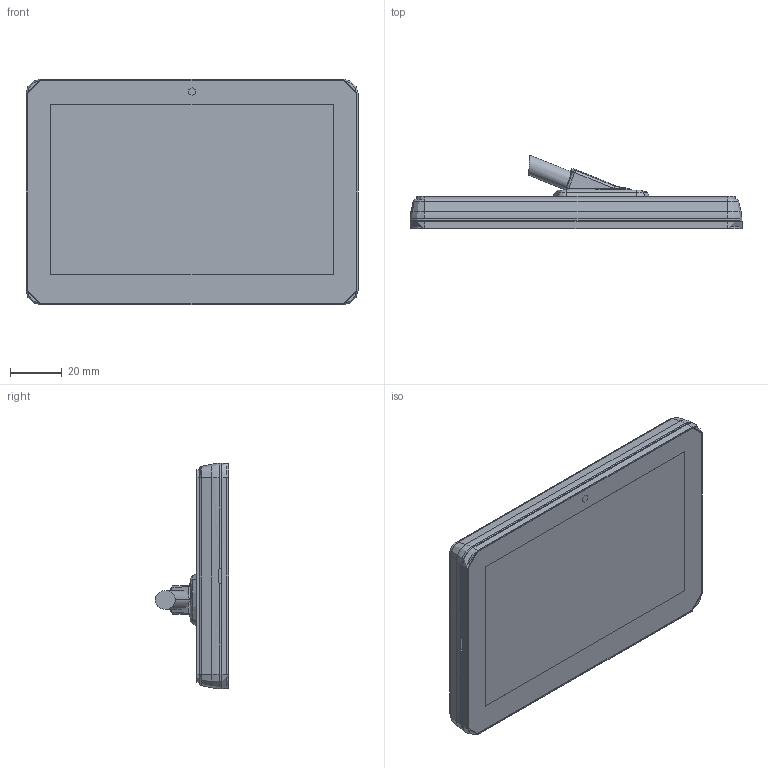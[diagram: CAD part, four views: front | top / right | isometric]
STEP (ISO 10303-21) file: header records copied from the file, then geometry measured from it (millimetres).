
FILE_DESCRIPTION (( 'STEP AP214' ), '1' );
FILE_NAME ('DimensionDrawing_GX Display 5-rev00.STEP', '2019-10-14T13:35:36', ( '' ), ( '' ), 'SwSTEP 2.0', 'SolidWorks 2019', '' );
FILE_SCHEMA (( 'AUTOMOTIVE_DESIGN' ));
Length unit declared in the file: millimetre
Products named in the file (12): HDMI_73 cable; Victron_CCGX2_Screen; Venus_Touch - display-screen_MODEL; Venus_Touch - Overmould_A_190115_MODEL; Venus_Touch - Frame_A_190115; Venus_Touch - Seal_A_190115; Venus_Touch - Protective_Vent_Adhesive; Venus_Touch - Isolation_Tape; DimensionDrawing_GX Display 5-rev00; Venus_Touch - Housing_A_190115
Assembly tree (11 placements, depth 3):
  DimensionDrawing_GX Display 5-rev00
    Venus_Touch - Housing_A_190115
    Venus_Touch - Frame_A_190115
    Venus_Touch - Seal_A_190115
    Venus_Touch - Overmould_A_190115_MODEL
      Venus_Touch - Overmould_A_190115_MODEL
      HDMI_73 cable
    Venus_Touch - display-screen_MODEL
      Venus_Touch - display-screen_MODEL
      Victron_CCGX2_Screen
    Venus_Touch - Isolation_Tape
    Venus_Touch - Protective_Vent_Adhesive
Bounding box: 128.2 x 28.46 x 87.1 mm (x, y, z)
Topology: 106 solids, 113 shells, 4877 faces, 13347 edges, 8455 vertices
Faces by surface type: plane 2529, cylinder 1740, bspline 511, cone 89, torus 8
Full cylindrical faces by diameter (mm): 2.5 x3
Entity records: 247226 total; most frequent: CARTESIAN_POINT 68302, ORIENTED_EDGE 25954, DIRECTION 25345, EDGE_CURVE 13014, AXIS2_PLACEMENT_3D 8594, VERTEX_POINT 8455, VECTOR 8157, LINE 8157
